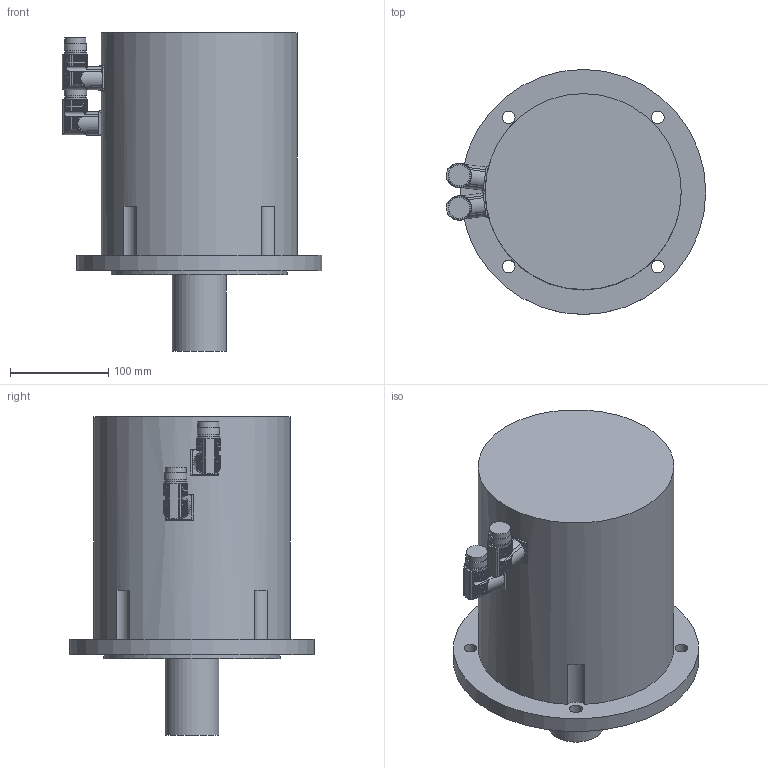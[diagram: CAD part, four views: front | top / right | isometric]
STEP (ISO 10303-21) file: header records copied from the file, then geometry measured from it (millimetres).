
FILE_DESCRIPTION(/* description */ (''),/* implementation_level */ '2;1');
FILE_NAME(/* name */ 'MH4162-Ux-Nxxx-Gxx-M0-P0.stp',/* time_stamp */ '2014-05-16T15:47:13+02:00',/* author */ (''),/* organization */ ('ESR Pollmeier GmbH'),/* preprocessor_version */ 'ST-DEVELOPER v8',/* originating_system */ 'UNIGRAPHICS SOLUTIONS - UNIGRAPHICS 18.0',/* authorisation */ '');
FILE_SCHEMA (('AUTOMOTIVE_DESIGN { 1 2 10303 214 0 1 1 1 }'));
Length unit declared in the file: millimetre
Products named in the file (2): Winkelflanschdose_0; MH4162_Ux_Nxxx_Gxx_M0_P0_0
Assembly tree (2 placements, depth 2):
  MH4162_Ux_Nxxx_Gxx_M0_P0_0
    Winkelflanschdose_0  x2
Bounding box: 264.73 x 250 x 325 mm (x, y, z)
Volume: 8138967.1 mm3; surface area: 292140.6 mm2
Topology: 3 solids, 3 shells, 364 faces, 1010 edges, 673 vertices
Faces by surface type: cylinder 304, plane 59, torus 1
Full cylindrical faces by diameter (mm): 13 x4, 16 x2, 20 x2, 21 x2, 21.5 x2, 23 x4, 55 x1, 80 x1, 160 x1, 180 x1, 200 x1, 250 x1
Entity records: 6672 total; most frequent: CARTESIAN_POINT 1702, ORIENTED_EDGE 1044, DIRECTION 994, EDGE_CURVE 522, AXIS2_PLACEMENT_3D 409, VERTEX_POINT 359, EDGE_LOOP 241, CIRCLE 204
